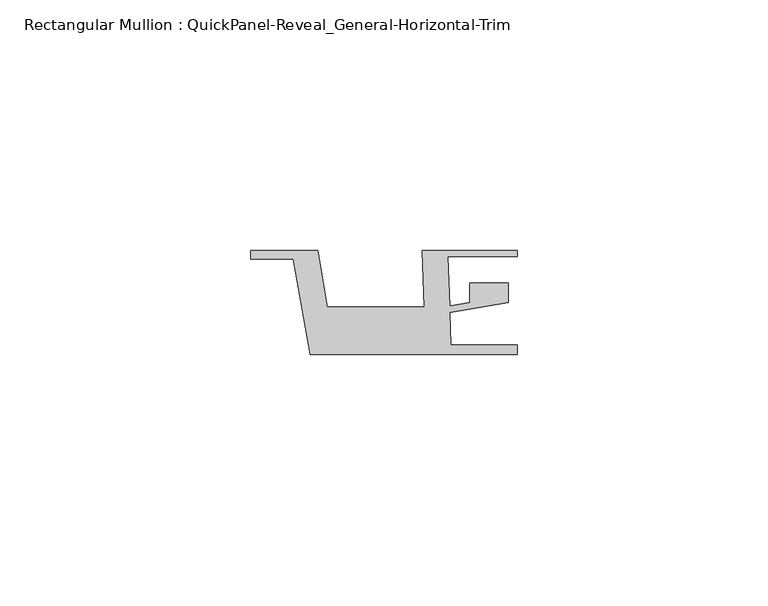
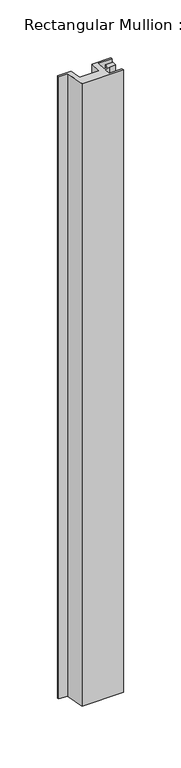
"""IFC4 building model written with IfcOpenShell, lengths in millimetres: member geometry, Rectangular Mullion : QuickPanel-Reveal_General-Horizontal-Trim."""

from ifc_helpers import new_model, si_unit, frame, origin, place, context, project, spatial, polyline, outline, extrude, source, transform, mapped, element, save


def rectangular_mullion_quickpanel_reveal_general_horizontal_f1f892f9(model_context):
    return source(origin(), model_context, "Body", "SweptSolid", [
        extrude(outline(polyline([(28.3897075, -8.6293878), (-12.9047811, -8.6293878), (-16.27755, 10.4985348), (-24.8029806, 10.4985348), (-24.8029806, 12.1803727), (-11.4233548, 12.1803727), (-9.490275, 0.9043028), (9.8003757, 0.9043028), (9.4066067, 12.1803727), (28.3897075, 12.1803727), (28.3897075, 10.9303752), (14.533354, 10.9303752), (14.8772811, 1.0815922), (18.86285, 1.7648465), (18.86285, 5.6493034), (26.6076231, 5.6493034), (26.6076231, 1.8040245), (20.1722905, 0.7008023), (14.9220096, -0.1992641), (15.1487948, -6.6935423), (28.3897075, -6.6935423), (28.3897075, -8.6293878)])), frame((0.0, 0.0, -654.9485599), z_axis=(0.0, 0.0, 1.0), x_axis=(1.0, 0.0, 0.0)), (0.0, 0.0, 1.0), 654.9485599),
    ])


if __name__ == "__main__":
    model = new_model("IFC4")
    model_context = context("Model", 3, world=origin())
    ifc_project = project(units=[si_unit("LENGTHUNIT", "METRE", prefix="MILLI")], contexts=[model_context])
    site = spatial("IfcSite", under=ifc_project)
    building = spatial("IfcBuilding", under=site)
    placement = place(None, origin())
    rectangular_mullion_quickpanel_reveal_general_horizontal_shape = rectangular_mullion_quickpanel_reveal_general_horizontal_f1f892f9(model_context)
    element("IfcMember", 1, ObjectType="Rectangular Mullion : QuickPanel-Reveal_General-Horizontal-Trim", at=placement, inside=building, context=model_context, shape_type="MappedRepresentation", body=[
        mapped(rectangular_mullion_quickpanel_reveal_general_horizontal_shape, transform((0.0, 0.0, 0.0), x_axis=(1.0, 0.0, 0.0), y_axis=(0.0, 1.0, 0.0), z_axis=(0.0, 0.0, 1.0))),
    ])
    save(model, "model.ifc")
